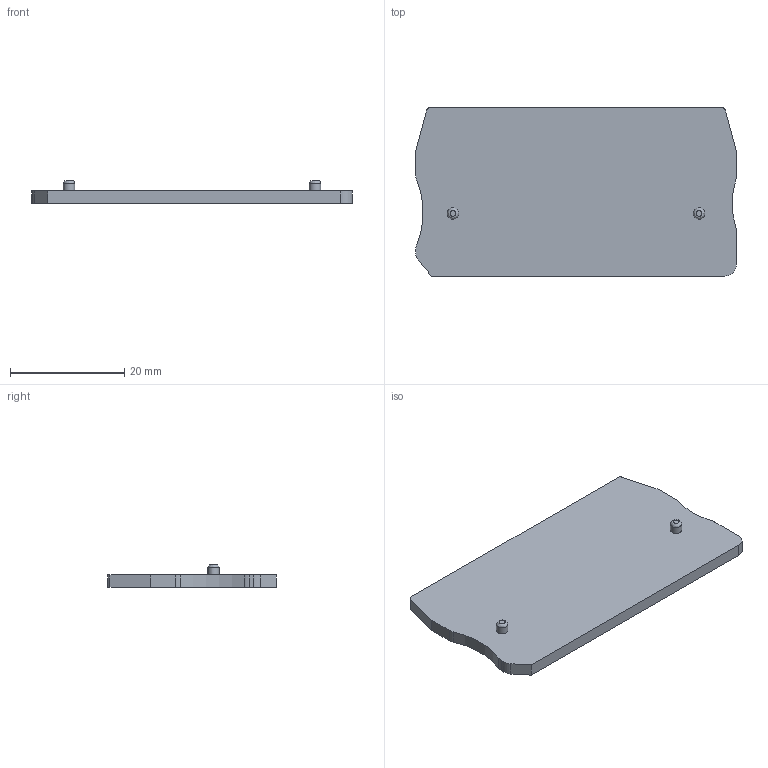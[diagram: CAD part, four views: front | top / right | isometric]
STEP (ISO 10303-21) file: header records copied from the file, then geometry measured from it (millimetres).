
FILE_DESCRIPTION(/* description */ (''),/* implementation_level */ '2;1');
FILE_NAME(/* name */ '815265_MTS_P4.stp',/* time_stamp */ '2019-03-14T17:34:18+08:00',/* author */ (''),/* organization */ (''),/* preprocessor_version */ 'ST-DEVELOPER v11',/* originating_system */ 'SIEMENS UGS NX 6.0',/* authorisation */ '');
FILE_SCHEMA (('AUTOMOTIVE_DESIGN { 1 0 10303 214 1 1 1 1 }'));
Length unit declared in the file: millimetre
Products named in the file (1): 815265_MTS_P4
Bounding box: 56 x 29.4 x 4 mm (x, y, z)
Volume: 3555.4 mm3; surface area: 3604.9 mm2
Topology: 1 solids, 1 shells, 27 faces, 67 edges, 44 vertices
Faces by surface type: plane 13, cylinder 12, bspline 2
Full cylindrical faces by diameter (mm): 2 x2
Entity records: 861 total; most frequent: CARTESIAN_POINT 189, DIRECTION 141, ORIENTED_EDGE 126, EDGE_CURVE 63, AXIS2_PLACEMENT_3D 52, VERTEX_POINT 44, LINE 37, VECTOR 37
